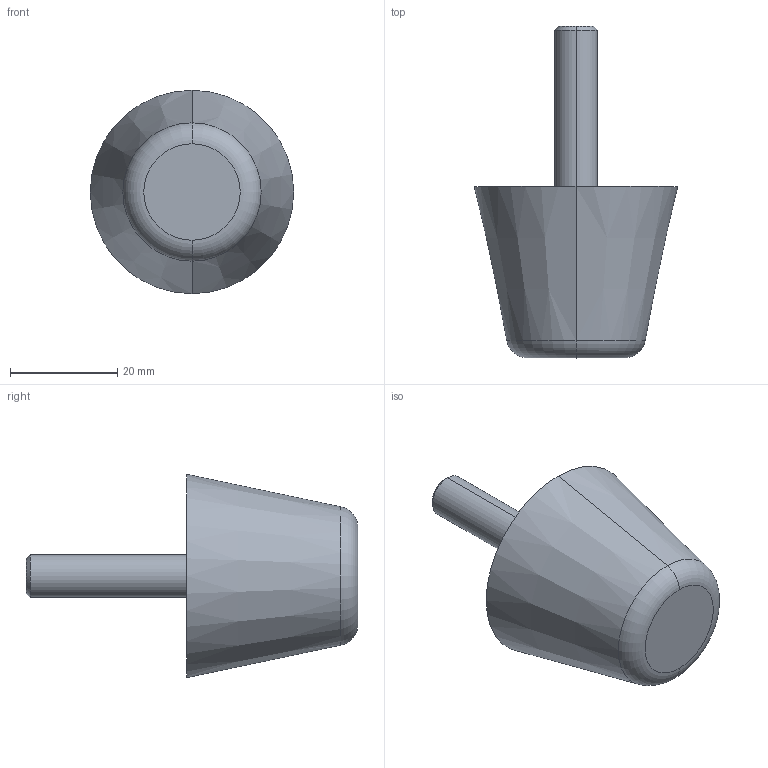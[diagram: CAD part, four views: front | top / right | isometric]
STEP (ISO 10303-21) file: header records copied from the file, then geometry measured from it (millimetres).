
FILE_DESCRIPTION (( 'STEP AP214' ), '1' );
FILE_NAME ('253-38-M8-30-40.step', '2023-03-24T07:38:20', ( '' ), ( '' ), 'SwSTEP 2.0', 'SolidWorks 2022', '' );
FILE_SCHEMA (( 'AUTOMOTIVE_DESIGN' ));
Length unit declared in the file: millimetre
Products named in the file (1): 253-38-M8-30-40
Bounding box: 38 x 61.99 x 38 mm (x, y, z)
Volume: 26265.5 mm3; surface area: 5473.5 mm2
Topology: 1 solids, 1 shells, 14 faces, 26 edges, 16 vertices
Faces by surface type: cone 6, plane 4, cylinder 2, torus 2
Entity records: 500 total; most frequent: DIRECTION 74, CARTESIAN_POINT 57, ORIENTED_EDGE 52, AXIS2_PLACEMENT_3D 33, EDGE_CURVE 26, CIRCLE 18, VERTEX_POINT 16, EDGE_LOOP 16
